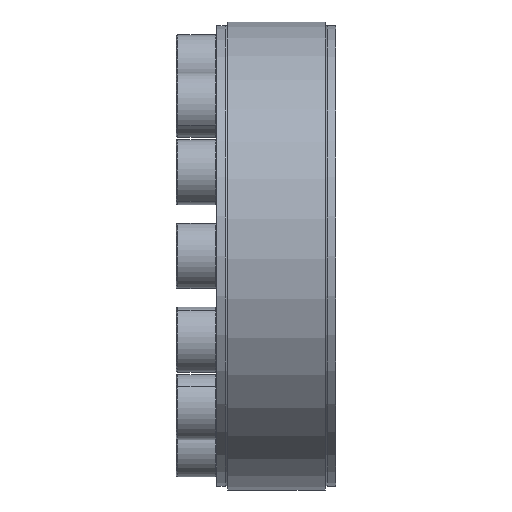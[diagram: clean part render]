
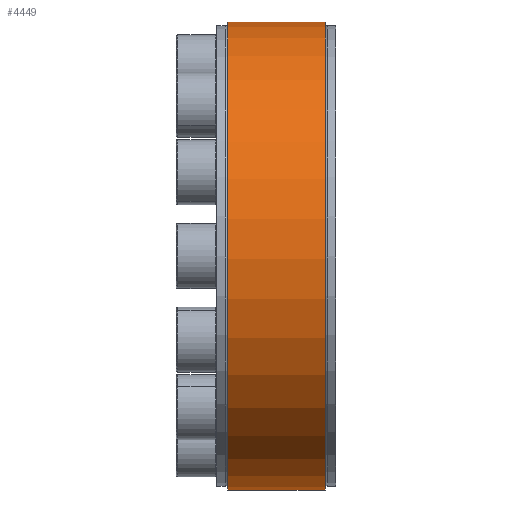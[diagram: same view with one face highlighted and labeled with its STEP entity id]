
A CAD part, front view. The second image highlights one B-rep face of the part: STEP entity #4449.
In plain terms, the highlighted cylindrical face has radius 57.5 mm (diameter 115 mm), a partial arc.
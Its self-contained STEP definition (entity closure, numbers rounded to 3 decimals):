
#302 = DIRECTION ( 'NONE',  ( 0., 0., 1. ) ) ;
#586 = VECTOR ( 'NONE', #762, 1000. ) ;
#735 = CARTESIAN_POINT ( 'NONE',  ( 12., 0., 0. ) ) ;
#762 = DIRECTION ( 'NONE',  ( -1., 0., 0. ) ) ;
#914 = VERTEX_POINT ( 'NONE', #4708 ) ;
#948 = VECTOR ( 'NONE', #10530, 1000. ) ;
#1016 = VERTEX_POINT ( 'NONE', #4863 ) ;
#1570 = DIRECTION ( 'NONE',  ( 0., 0., 1. ) ) ;
#1736 = CIRCLE ( 'NONE', #4836, 57.5 ) ;
#1954 = EDGE_CURVE ( 'NONE', #7789, #1016, #7317, .T. ) ;
#2546 = EDGE_CURVE ( 'NONE', #914, #1016, #7925, .T. ) ;
#4449 = ADVANCED_FACE ( 'NONE', ( #4644 ), #6586, .T. ) ;
#4644 = FACE_OUTER_BOUND ( 'NONE', #6734, .T. ) ;
#4708 = CARTESIAN_POINT ( 'NONE',  ( 12., 1.5, 57.48 ) ) ;
#4762 = LINE ( 'NONE', #5775, #586 ) ;
#4781 = CARTESIAN_POINT ( 'NONE',  ( -14.598, -1.5, 57.48 ) ) ;
#4836 = AXIS2_PLACEMENT_3D ( 'NONE', #10218, #5317, #302 ) ;
#4863 = CARTESIAN_POINT ( 'NONE',  ( 12., -1.5, 57.48 ) ) ;
#5085 = EDGE_CURVE ( 'NONE', #914, #7204, #4762, .T. ) ;
#5317 = DIRECTION ( 'NONE',  ( -1., 0., 0. ) ) ;
#5454 = AXIS2_PLACEMENT_3D ( 'NONE', #9557, #6271, #7076 ) ;
#5775 = CARTESIAN_POINT ( 'NONE',  ( -14.598, 1.5, 57.48 ) ) ;
#6067 = AXIS2_PLACEMENT_3D ( 'NONE', #735, #6573, #1570 ) ;
#6271 = DIRECTION ( 'NONE',  ( -1., 0., 0. ) ) ;
#6573 = DIRECTION ( 'NONE',  ( -1., 0., 0. ) ) ;
#6579 = EDGE_CURVE ( 'NONE', #7204, #7789, #1736, .T. ) ;
#6586 = CYLINDRICAL_SURFACE ( 'NONE', #5454, 57.5 ) ;
#6734 = EDGE_LOOP ( 'NONE', ( #8713, #9870, #9854, #9341 ) ) ;
#7076 = DIRECTION ( 'NONE',  ( 0., 0., 1. ) ) ;
#7204 = VERTEX_POINT ( 'NONE', #7719 ) ;
#7317 = LINE ( 'NONE', #4781, #948 ) ;
#7719 = CARTESIAN_POINT ( 'NONE',  ( -12., 1.5, 57.48 ) ) ;
#7789 = VERTEX_POINT ( 'NONE', #8651 ) ;
#7925 = CIRCLE ( 'NONE', #6067, 57.5 ) ;
#8651 = CARTESIAN_POINT ( 'NONE',  ( -12., -1.5, 57.48 ) ) ;
#8713 = ORIENTED_EDGE ( 'NONE', *, *, #5085, .F. ) ;
#9341 = ORIENTED_EDGE ( 'NONE', *, *, #6579, .F. ) ;
#9557 = CARTESIAN_POINT ( 'NONE',  ( -14.598, 0., 0. ) ) ;
#9854 = ORIENTED_EDGE ( 'NONE', *, *, #1954, .F. ) ;
#9870 = ORIENTED_EDGE ( 'NONE', *, *, #2546, .T. ) ;
#10218 = CARTESIAN_POINT ( 'NONE',  ( -12., 0., 0. ) ) ;
#10530 = DIRECTION ( 'NONE',  ( 1., 0., 0. ) ) ;
